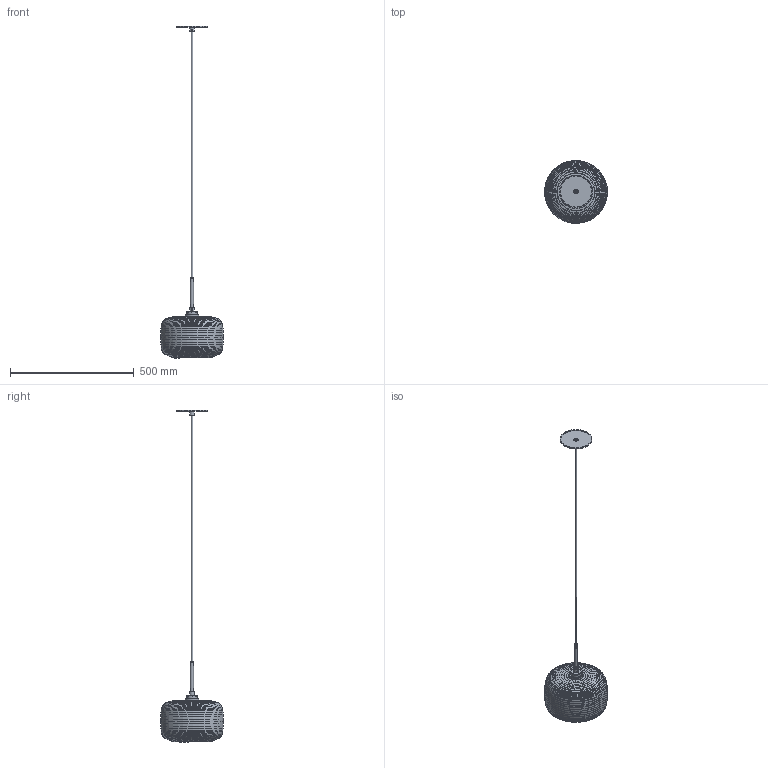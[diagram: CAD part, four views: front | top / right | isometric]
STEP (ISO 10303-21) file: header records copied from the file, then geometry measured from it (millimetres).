
FILE_DESCRIPTION(/* description */ (''),/* implementation_level */ '2;1');
FILE_NAME(/* name */ 'C:/Users/zach/Niche/Product Development - Documents/CAD Models/Pendants/Arca/Glass - Luxe Hardware/Niche - Arca Pendant.step',/* time_stamp */ '2022-09-21T09:45:51-04:00',/* author */ (''),/* organization */ (''),/* preprocessor_version */ 'ST-DEVELOPER v19',/* originating_system */ 'Autodesk Translation Framework v11.7.0.108',/* authorisation */ '');
FILE_SCHEMA (('AUTOMOTIVE_DESIGN { 1 0 10303 214 3 1 1 }'));
Length unit declared in the file: inch
Products named in the file (1): Arca
Bounding box: 253.71 x 253.52 x 1339.77 mm (x, y, z)
Volume: 1000610.7 mm3; surface area: 478766.1 mm2
Topology: 12 solids, 12 shells, 362 faces, 984 edges, 652 vertices
Faces by surface type: cylinder 153, cone 75, torus 63, plane 59, bspline 11, sphere 1
Full cylindrical faces by diameter (mm): 4.355 x4, 4.529 x1, 4.927 x9, 5.08 x1, 6.096 x1, 6.35 x1, 6.5 x1, 7.62 x1, 7.744 x7, 8.036 x15, 8.852 x1, 8.884 x8, 9.035 x1, 9.146 x11, 10.16 x1, 12.7 x2, 19.05 x1, 19.2 x1, 26.022 x1, 34.74 x1, 34.97 x1, 35.052 x9, 37.85 x8, 39 x1, 39.35 x1, 41.035 x1, 41.2 x1, 41.884 x1, 44 x1, 55 x2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
Entity records: 21762 total; most frequent: CARTESIAN_POINT 12771, ORIENTED_EDGE 1966, DIRECTION 1791, EDGE_CURVE 983, AXIS2_PLACEMENT_3D 752, VERTEX_POINT 652, CIRCLE 400, EDGE_LOOP 393
